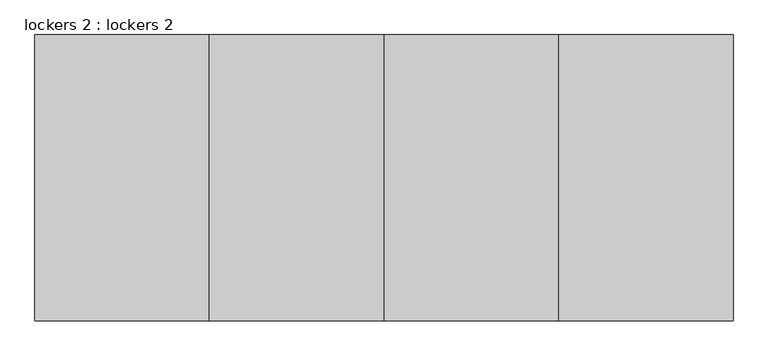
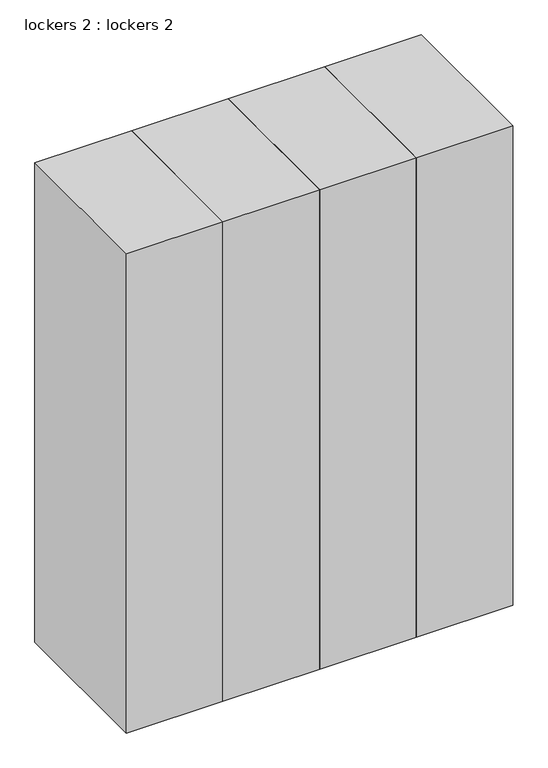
"""IFC4 building model written with IfcOpenShell, lengths in millimetres: proxy geometry, lockers 2 : lockers 2."""

from ifc_helpers import new_model, si_unit, frame, origin, place, context, project, spatial, polyline, outline, extrude, source, transform, mapped, element, save


def lockers_2_lockers_2_2d2369c1(model_context):
    return source(origin(), model_context, "Body", "SweptSolid", [
        extrude(outline(polyline([(610.0, 800.0), (610.0, 300.0), (305.0, 300.0), (305.0, 800.0), (610.0, 800.0)])), frame((0.0, 0.0, 500.0), z_axis=(0.0, 0.0, 1.0), x_axis=(1.0, 0.0, 0.0)), (0.0, 0.0, 1.0), 1600.0),
        extrude(outline(polyline([(305.0, 800.0), (305.0, 300.0), (0.0, 300.0), (0.0, 800.0), (305.0, 800.0)])), frame((0.0, 0.0, 500.0), z_axis=(0.0, 0.0, 1.0), x_axis=(1.0, 0.0, 0.0)), (0.0, 0.0, 1.0), 1600.0),
        extrude(outline(polyline([(0.0, 800.0), (0.0, 300.0), (-305.0, 300.0), (-305.0, 800.0), (0.0, 800.0)])), frame((0.0, 0.0, 500.0), z_axis=(0.0, 0.0, 1.0), x_axis=(1.0, 0.0, 0.0)), (0.0, 0.0, 1.0), 1600.0),
        extrude(outline(polyline([(-305.0, 800.0), (-305.0, 300.0), (-610.0, 300.0), (-610.0, 800.0), (-305.0, 800.0)])), frame((0.0, 0.0, 500.0), z_axis=(0.0, 0.0, 1.0), x_axis=(1.0, 0.0, 0.0)), (0.0, 0.0, 1.0), 1600.0),
    ])


if __name__ == "__main__":
    model = new_model("IFC4")
    model_context = context("Model", 3, world=origin())
    ifc_project = project(units=[si_unit("LENGTHUNIT", "METRE", prefix="MILLI")], contexts=[model_context])
    site = spatial("IfcSite", under=ifc_project)
    building = spatial("IfcBuilding", under=site)
    placement = place(None, origin())
    lockers_2_lockers_2_shape = lockers_2_lockers_2_2d2369c1(model_context)
    element("IfcBuildingElementProxy", 1, Name="lockers 2 : lockers 2", ObjectType="lockers 2 : lockers 2", at=placement, inside=building, context=model_context, shape_type="MappedRepresentation", body=[
        mapped(lockers_2_lockers_2_shape, transform((0.0, 0.0, 0.0), x_axis=(1.0, 0.0, 0.0), y_axis=(0.0, 1.0, 0.0), z_axis=(0.0, 0.0, 1.0))),
    ])
    save(model, "model.ifc")
